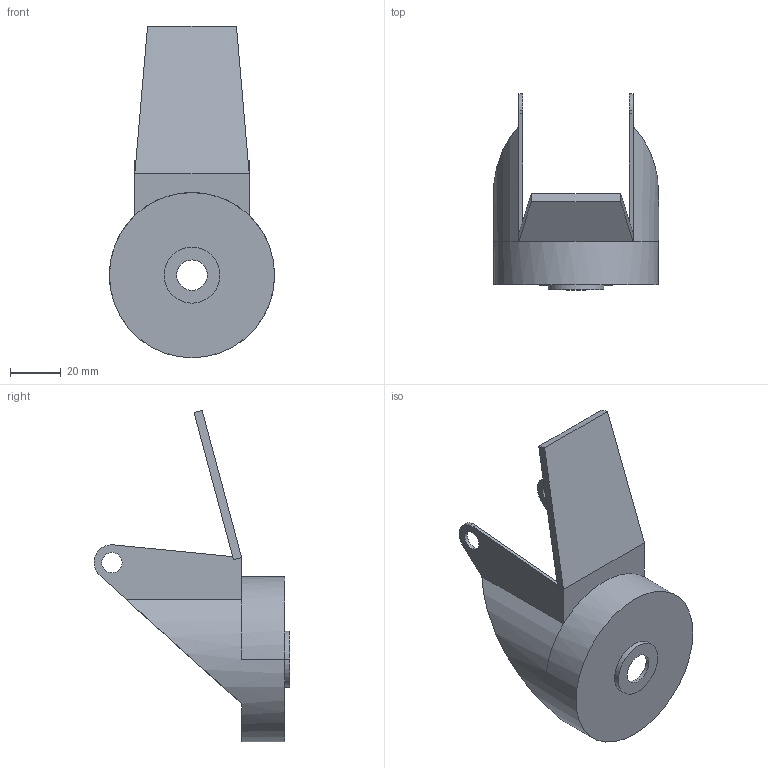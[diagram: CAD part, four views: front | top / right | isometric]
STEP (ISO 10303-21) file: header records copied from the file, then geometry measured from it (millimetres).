
FILE_DESCRIPTION((''),'2;1');
FILE_NAME('RUP080_3','2002-12-27T',('Lipro doo'),('Lipro d.o.o.'),'PRO/ENGINEER BY PARAMETRIC TECHNOLOGY CORPORATION, 2001150','PRO/ENGINEER BY PARAMETRIC TECHNOLOGY CORPORATION, 2001150','');
FILE_SCHEMA(('CONFIG_CONTROL_DESIGN'));
Length unit declared in the file: millimetre
Products named in the file (1): RUP080_3
Bounding box: 65 x 77.03 x 130.46 mm (x, y, z)
Volume: 24332.2 mm3; surface area: 27971.3 mm2
Topology: 1 solids, 1 shells, 41 faces, 106 edges, 69 vertices
Faces by surface type: plane 25, cylinder 16
Entity records: 1327 total; most frequent: CARTESIAN_POINT 250, DIRECTION 217, ORIENTED_EDGE 212, EDGE_CURVE 106, AXIS2_PLACEMENT_3D 76, VERTEX_POINT 69, VECTOR 65, LINE 65
